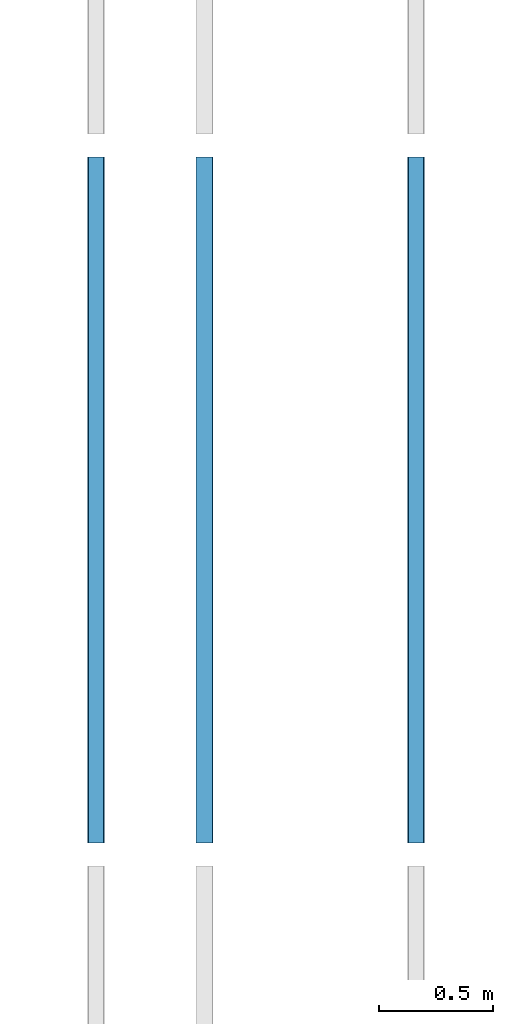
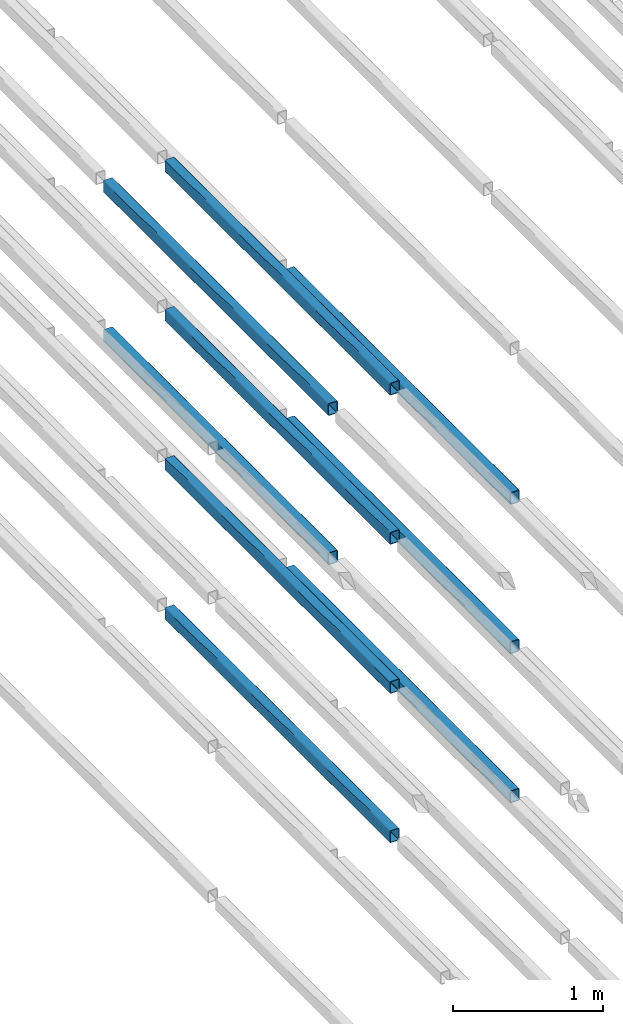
# One storey, part 65 of 290: 9 beams.
"""IFC2X3 building model written with IfcOpenShell, lengths in metres."""

from ifc_helpers import new_model, entity, si_unit, converted_unit, derived_unit, direction, frame, frame_2d, origin, place, context, subcontext, project, spatial, polyline, circle_curve, parameter, trimmed, segment, composite_curve, outline, extrude, material, type_object, element, save


model = new_model("IFC2X3")

# Units and contexts
model_context = context("Model", 3, precision=1e-05, world=origin(), true_north=direction((6.12303176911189e-17, 1.0)))
body_context = subcontext(model_context, "Body", "Model", "MODEL_VIEW")
ifc_project = project(units=[si_unit("LENGTHUNIT", "METRE"), si_unit("AREAUNIT", "SQUARE_METRE"), si_unit("VOLUMEUNIT", "CUBIC_METRE"), converted_unit("PLANEANGLEUNIT", "DEGREE", entity("IfcRatioMeasure", 0.0174532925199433), si_unit("PLANEANGLEUNIT", "RADIAN"), dimensions=[0, 0, 0, 0, 0, 0, 0]), si_unit("MASSUNIT", "GRAM", prefix="KILO"), derived_unit("MASSDENSITYUNIT", [(si_unit("MASSUNIT", "GRAM", prefix="KILO"), 1), (si_unit("LENGTHUNIT", "METRE"), -3)]), derived_unit("MOMENTOFINERTIAUNIT", [(si_unit("LENGTHUNIT", "METRE"), 4)]), si_unit("TIMEUNIT", "SECOND"), si_unit("FREQUENCYUNIT", "HERTZ"), si_unit("THERMODYNAMICTEMPERATUREUNIT", "DEGREE_CELSIUS"), derived_unit("THERMALTRANSMITTANCEUNIT", [(si_unit("MASSUNIT", "GRAM", prefix="KILO"), 1), (si_unit("THERMODYNAMICTEMPERATUREUNIT", "KELVIN"), -1), (si_unit("TIMEUNIT", "SECOND"), -3)]), derived_unit("VOLUMETRICFLOWRATEUNIT", [(si_unit("LENGTHUNIT", "METRE"), 3), (si_unit("TIMEUNIT", "SECOND"), -1)]), si_unit("ELECTRICCURRENTUNIT", "AMPERE"), si_unit("ELECTRICVOLTAGEUNIT", "VOLT"), si_unit("POWERUNIT", "WATT"), si_unit("FORCEUNIT", "NEWTON", prefix="KILO"), si_unit("ILLUMINANCEUNIT", "LUX"), si_unit("LUMINOUSFLUXUNIT", "LUMEN"), si_unit("LUMINOUSINTENSITYUNIT", "CANDELA"), derived_unit("USERDEFINED", [(si_unit("MASSUNIT", "GRAM", prefix="KILO"), -1), (si_unit("LENGTHUNIT", "METRE"), -2), (si_unit("TIMEUNIT", "SECOND"), 3), (si_unit("LUMINOUSFLUXUNIT", "LUMEN"), 1)]), derived_unit("LINEARVELOCITYUNIT", [(si_unit("LENGTHUNIT", "METRE"), 1), (si_unit("TIMEUNIT", "SECOND"), -1)]), si_unit("PRESSUREUNIT", "PASCAL"), derived_unit("USERDEFINED", [(si_unit("LENGTHUNIT", "METRE"), -2), (si_unit("MASSUNIT", "GRAM", prefix="KILO"), 1), (si_unit("TIMEUNIT", "SECOND"), -2)]), derived_unit("LINEARFORCEUNIT", [(si_unit("MASSUNIT", "GRAM", prefix="KILO"), 1), (si_unit("LENGTHUNIT", "METRE"), 1), (si_unit("TIMEUNIT", "SECOND"), -2), (si_unit("LENGTHUNIT", "METRE"), -1)]), derived_unit("PLANARFORCEUNIT", [(si_unit("MASSUNIT", "GRAM", prefix="KILO"), 1), (si_unit("LENGTHUNIT", "METRE"), 1), (si_unit("TIMEUNIT", "SECOND"), -2), (si_unit("LENGTHUNIT", "METRE"), -2)])], contexts=[model_context])

# Site, building, storey
site_placement = place(None, origin())
site = spatial("IfcSite", under=ifc_project, at=site_placement, Name="Default", CompositionType="ELEMENT")
building_placement = place(site_placement, origin())
building = spatial("IfcBuilding", under=site, at=building_placement, CompositionType="ELEMENT")
storey_placement = place(building_placement, frame((0.0, 0.0, 4.0)))
storey = spatial("IfcBuildingStorey", under=building, at=storey_placement, Name="01_OG", CompositionType="ELEMENT", Elevation=4.0)

# Beams
ifc_material = material(Name="Metall - Baustahl S235 blau")
beam_type = type_object("IfcBeamType", Name="RHS Träger (EN 10219-2):RHS 100 x 75 x 5", PredefinedType="NOTDEFINED")
beam_1_placement = place(storey_placement, frame((-189.865111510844, 39.548088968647, 1.23), z_axis=(0.0, 0.0, 1.0), x_axis=(0.0, 1.0, 0.0)))
element("IfcBeam", 1, at=beam_1_placement, inside=storey, type_object=beam_type, material=ifc_material, Name="RHS Träger (EN 10219-2):RHS 100 x 75 x 5", ObjectType="RHS Träger (EN 10219-2):RHS 100 x 75 x 5", context=body_context, shape_type="SweptSolid", body=[
    extrude(outline(composite_curve([segment(polyline([(-0.0399999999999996, -0.0375000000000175), (0.0399999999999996, -0.0375000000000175)]), True, "CONTINUOUS"), segment(trimmed(circle_curve(frame_2d((0.0399999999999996, -0.0275000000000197), x_axis=(0.0, 1.0)), 0.01), [parameter(180.0)], [parameter(270.0)], True, "PARAMETER"), True, "CONTINUOUS"), segment(polyline([(0.0500000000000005, -0.0275000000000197), (0.0500000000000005, 0.0274999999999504)]), True, "CONTINUOUS"), segment(trimmed(circle_curve(frame_2d((0.0399999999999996, 0.0274999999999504), x_axis=(0.0, 1.0)), 0.01), [parameter(270.0)], [parameter(4.07110999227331e-13)], True, "PARAMETER"), True, "CONTINUOUS"), segment(polyline([(0.0399999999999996, 0.0374999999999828), (-0.0399999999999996, 0.0374999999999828)]), True, "CONTINUOUS"), segment(trimmed(circle_curve(frame_2d((-0.0399999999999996, 0.0274999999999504), x_axis=(0.0, 1.0)), 0.01), [parameter(360.0)], [parameter(90.0000000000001)], True, "PARAMETER"), True, "CONTINUOUS"), segment(polyline([(-0.0499999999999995, 0.0274999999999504), (-0.0499999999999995, -0.0275000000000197)]), True, "CONTINUOUS"), segment(trimmed(circle_curve(frame_2d((-0.0399999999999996, -0.0275000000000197), x_axis=(0.0, 1.0)), 0.01), [parameter(90.0000000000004)], [parameter(180.0)], True, "PARAMETER"), True, "CONTINUOUS")], self_intersect=False), holes=[composite_curve([segment(trimmed(circle_curve(frame_2d((-0.0400000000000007, 0.0274999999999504), x_axis=(0.0, 1.0)), 0.005), [parameter(360.0)], [parameter(89.9999999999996)], True, "PARAMETER"), False, "CONTINUOUS"), segment(polyline([(-0.0400000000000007, 0.0324999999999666), (0.0399999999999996, 0.0324999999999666)]), True, "CONTINUOUS"), segment(trimmed(circle_curve(frame_2d((0.0399999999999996, 0.0274999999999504), x_axis=(0.0, 1.0)), 0.005), [parameter(270.0)], [parameter(0.0)], True, "PARAMETER"), False, "CONTINUOUS"), segment(polyline([(0.0449999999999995, 0.0274999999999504), (0.0449999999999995, -0.0275000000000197)]), True, "CONTINUOUS"), segment(trimmed(circle_curve(frame_2d((0.0399999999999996, -0.0275000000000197), x_axis=(0.0, 1.0)), 0.005), [parameter(180.0)], [parameter(269.999999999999)], True, "PARAMETER"), False, "CONTINUOUS"), segment(polyline([(0.0399999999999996, -0.0325000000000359), (-0.0400000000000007, -0.0325000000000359)]), True, "CONTINUOUS"), segment(trimmed(circle_curve(frame_2d((-0.0400000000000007, -0.0275000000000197), x_axis=(0.0, 1.0)), 0.005), [parameter(90.0000000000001)], [parameter(180.0)], True, "PARAMETER"), False, "CONTINUOUS"), segment(polyline([(-0.0450000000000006, -0.0275000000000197), (-0.0450000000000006, 0.0274999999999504)]), True, "CONTINUOUS")], self_intersect=False)]), frame((0.000100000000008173, -0.0374999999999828, -0.0500000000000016), z_axis=(1.0, 0.0, 0.0), x_axis=(0.0, 0.0, -1.0)), (0.0, 0.0, 1.0), 2.99979999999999),
])
beam_2_placement = place(storey_placement, frame((-189.865111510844, 39.548088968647, 2.445), z_axis=(0.0, 0.0, 1.0), x_axis=(0.0, 1.0, 0.0)))
element("IfcBeam", 2, at=beam_2_placement, inside=storey, type_object=beam_type, material=ifc_material, Name="RHS Träger (EN 10219-2):RHS 100 x 75 x 5", ObjectType="RHS Träger (EN 10219-2):RHS 100 x 75 x 5", context=body_context, shape_type="SweptSolid", body=[
    extrude(outline(composite_curve([segment(polyline([(-0.0399999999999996, -0.0375000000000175), (0.0399999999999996, -0.0375000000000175)]), True, "CONTINUOUS"), segment(trimmed(circle_curve(frame_2d((0.0399999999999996, -0.0275000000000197), x_axis=(0.0, 1.0)), 0.01), [parameter(180.0)], [parameter(270.0)], True, "PARAMETER"), True, "CONTINUOUS"), segment(polyline([(0.0500000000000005, -0.0275000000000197), (0.0500000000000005, 0.0274999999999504)]), True, "CONTINUOUS"), segment(trimmed(circle_curve(frame_2d((0.0399999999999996, 0.0274999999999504), x_axis=(0.0, 1.0)), 0.01), [parameter(270.0)], [parameter(4.07110999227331e-13)], True, "PARAMETER"), True, "CONTINUOUS"), segment(polyline([(0.0399999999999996, 0.0374999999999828), (-0.0399999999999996, 0.0374999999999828)]), True, "CONTINUOUS"), segment(trimmed(circle_curve(frame_2d((-0.0399999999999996, 0.0274999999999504), x_axis=(0.0, 1.0)), 0.01), [parameter(360.0)], [parameter(90.0000000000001)], True, "PARAMETER"), True, "CONTINUOUS"), segment(polyline([(-0.0499999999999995, 0.0274999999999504), (-0.0499999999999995, -0.0275000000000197)]), True, "CONTINUOUS"), segment(trimmed(circle_curve(frame_2d((-0.0399999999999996, -0.0275000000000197), x_axis=(0.0, 1.0)), 0.01), [parameter(90.0000000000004)], [parameter(180.0)], True, "PARAMETER"), True, "CONTINUOUS")], self_intersect=False), holes=[composite_curve([segment(trimmed(circle_curve(frame_2d((-0.0400000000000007, 0.0274999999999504), x_axis=(0.0, 1.0)), 0.005), [parameter(360.0)], [parameter(89.9999999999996)], True, "PARAMETER"), False, "CONTINUOUS"), segment(polyline([(-0.0400000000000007, 0.0324999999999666), (0.0399999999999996, 0.0324999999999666)]), True, "CONTINUOUS"), segment(trimmed(circle_curve(frame_2d((0.0399999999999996, 0.0274999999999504), x_axis=(0.0, 1.0)), 0.005), [parameter(270.0)], [parameter(0.0)], True, "PARAMETER"), False, "CONTINUOUS"), segment(polyline([(0.0449999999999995, 0.0274999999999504), (0.0449999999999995, -0.0275000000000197)]), True, "CONTINUOUS"), segment(trimmed(circle_curve(frame_2d((0.0399999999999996, -0.0275000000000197), x_axis=(0.0, 1.0)), 0.005), [parameter(180.0)], [parameter(269.999999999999)], True, "PARAMETER"), False, "CONTINUOUS"), segment(polyline([(0.0399999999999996, -0.0325000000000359), (-0.0400000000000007, -0.0325000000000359)]), True, "CONTINUOUS"), segment(trimmed(circle_curve(frame_2d((-0.0400000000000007, -0.0275000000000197), x_axis=(0.0, 1.0)), 0.005), [parameter(90.0000000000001)], [parameter(180.0)], True, "PARAMETER"), False, "CONTINUOUS"), segment(polyline([(-0.0450000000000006, -0.0275000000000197), (-0.0450000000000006, 0.0274999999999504)]), True, "CONTINUOUS")], self_intersect=False)]), frame((0.000100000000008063, -0.0374999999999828, -0.0500000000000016), z_axis=(1.0, 0.0, 0.0), x_axis=(0.0, 0.0, -1.0)), (0.0, 0.0, 1.0), 2.99979999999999),
])
beam_3_placement = place(storey_placement, frame((-189.315111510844, 39.548088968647, -1.2), z_axis=(0.0, 0.0, 1.0), x_axis=(0.0, 1.0, 0.0)))
element("IfcBeam", 3, at=beam_3_placement, inside=storey, type_object=beam_type, material=ifc_material, Name="RHS Träger (EN 10219-2):RHS 100 x 75 x 5", ObjectType="RHS Träger (EN 10219-2):RHS 100 x 75 x 5", context=body_context, shape_type="SweptSolid", body=[
    extrude(outline(composite_curve([segment(trimmed(circle_curve(frame_2d((-0.0274999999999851, -0.0400000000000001), x_axis=(1.0, 0.0)), 0.01), [parameter(180.0)], [parameter(270.0)], True, "PARAMETER"), True, "CONTINUOUS"), segment(polyline([(-0.0274999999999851, -0.05), (0.0274999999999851, -0.05)]), True, "CONTINUOUS"), segment(trimmed(circle_curve(frame_2d((0.0274999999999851, -0.0400000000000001), x_axis=(1.0, 0.0)), 0.01), [parameter(270.0)], [parameter(5.08888749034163e-14)], True, "PARAMETER"), True, "CONTINUOUS"), segment(polyline([(0.0375000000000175, -0.0400000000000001), (0.0375000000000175, 0.0400000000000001)]), True, "CONTINUOUS"), segment(trimmed(circle_curve(frame_2d((0.0274999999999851, 0.0400000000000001), x_axis=(1.0, 0.0)), 0.01), [parameter(360.0)], [parameter(89.9999999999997)], True, "PARAMETER"), True, "CONTINUOUS"), segment(polyline([(0.0274999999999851, 0.05), (-0.0274999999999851, 0.05)]), True, "CONTINUOUS"), segment(trimmed(circle_curve(frame_2d((-0.0274999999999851, 0.0400000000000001), x_axis=(1.0, 0.0)), 0.01), [parameter(90.0000000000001)], [parameter(180.0)], True, "PARAMETER"), True, "CONTINUOUS"), segment(polyline([(-0.0374999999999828, 0.0400000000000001), (-0.0374999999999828, -0.0400000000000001)]), True, "CONTINUOUS")], self_intersect=False), holes=[composite_curve([segment(polyline([(0.0274999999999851, -0.0450000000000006), (-0.0274999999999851, -0.0450000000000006)]), True, "CONTINUOUS"), segment(trimmed(circle_curve(frame_2d((-0.0274999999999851, -0.0400000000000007), x_axis=(1.0, 0.0)), 0.005), [parameter(180.0)], [parameter(270.0)], True, "PARAMETER"), False, "CONTINUOUS"), segment(polyline([(-0.0325000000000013, -0.0400000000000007), (-0.0325000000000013, 0.039999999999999)]), True, "CONTINUOUS"), segment(trimmed(circle_curve(frame_2d((-0.0274999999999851, 0.039999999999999), x_axis=(1.0, 0.0)), 0.005), [parameter(90.0000000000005)], [parameter(180.0)], True, "PARAMETER"), False, "CONTINUOUS"), segment(polyline([(-0.0274999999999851, 0.044999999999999), (0.0274999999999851, 0.044999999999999)]), True, "CONTINUOUS"), segment(trimmed(circle_curve(frame_2d((0.0274999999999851, 0.039999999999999), x_axis=(1.0, 0.0)), 0.005), [parameter(0.0)], [parameter(90.0000000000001)], True, "PARAMETER"), False, "CONTINUOUS"), segment(polyline([(0.0325000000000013, 0.039999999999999), (0.0325000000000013, -0.0400000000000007)]), True, "CONTINUOUS"), segment(trimmed(circle_curve(frame_2d((0.0274999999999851, -0.0400000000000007), x_axis=(1.0, 0.0)), 0.005), [parameter(270.0)], [parameter(4.07110999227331e-13)], True, "PARAMETER"), False, "CONTINUOUS")], self_intersect=False)]), frame((9.99999999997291e-05, 0.0375000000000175, -0.0500000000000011), z_axis=(1.0, 0.0, 0.0), x_axis=(0.0, -1.0, 0.0)), (0.0, 0.0, 1.0), 2.99979999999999),
])
beam_4_placement = place(storey_placement, frame((-189.315111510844, 39.548088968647, 0.0150000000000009), z_axis=(0.0, 0.0, 1.0), x_axis=(0.0, 1.0, 0.0)))
element("IfcBeam", 4, at=beam_4_placement, inside=storey, type_object=beam_type, material=ifc_material, Name="RHS Träger (EN 10219-2):RHS 100 x 75 x 5", ObjectType="RHS Träger (EN 10219-2):RHS 100 x 75 x 5", context=body_context, shape_type="SweptSolid", body=[
    extrude(outline(composite_curve([segment(trimmed(circle_curve(frame_2d((-0.0274999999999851, -0.0400000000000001), x_axis=(1.0, 0.0)), 0.01), [parameter(180.0)], [parameter(270.0)], True, "PARAMETER"), True, "CONTINUOUS"), segment(polyline([(-0.0274999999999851, -0.05), (0.0274999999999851, -0.05)]), True, "CONTINUOUS"), segment(trimmed(circle_curve(frame_2d((0.0274999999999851, -0.0400000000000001), x_axis=(1.0, 0.0)), 0.01), [parameter(270.0)], [parameter(5.08888749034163e-14)], True, "PARAMETER"), True, "CONTINUOUS"), segment(polyline([(0.0375000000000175, -0.0400000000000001), (0.0375000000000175, 0.0400000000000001)]), True, "CONTINUOUS"), segment(trimmed(circle_curve(frame_2d((0.0274999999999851, 0.0400000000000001), x_axis=(1.0, 0.0)), 0.01), [parameter(360.0)], [parameter(89.9999999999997)], True, "PARAMETER"), True, "CONTINUOUS"), segment(polyline([(0.0274999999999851, 0.05), (-0.0274999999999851, 0.05)]), True, "CONTINUOUS"), segment(trimmed(circle_curve(frame_2d((-0.0274999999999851, 0.0400000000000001), x_axis=(1.0, 0.0)), 0.01), [parameter(90.0000000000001)], [parameter(180.0)], True, "PARAMETER"), True, "CONTINUOUS"), segment(polyline([(-0.0374999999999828, 0.0400000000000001), (-0.0374999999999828, -0.0400000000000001)]), True, "CONTINUOUS")], self_intersect=False), holes=[composite_curve([segment(polyline([(0.0274999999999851, -0.0450000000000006), (-0.0274999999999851, -0.0450000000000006)]), True, "CONTINUOUS"), segment(trimmed(circle_curve(frame_2d((-0.0274999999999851, -0.0400000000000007), x_axis=(1.0, 0.0)), 0.005), [parameter(180.0)], [parameter(270.0)], True, "PARAMETER"), False, "CONTINUOUS"), segment(polyline([(-0.0325000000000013, -0.0400000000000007), (-0.0325000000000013, 0.039999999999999)]), True, "CONTINUOUS"), segment(trimmed(circle_curve(frame_2d((-0.0274999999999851, 0.039999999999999), x_axis=(1.0, 0.0)), 0.005), [parameter(90.0000000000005)], [parameter(180.0)], True, "PARAMETER"), False, "CONTINUOUS"), segment(polyline([(-0.0274999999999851, 0.044999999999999), (0.0274999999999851, 0.044999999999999)]), True, "CONTINUOUS"), segment(trimmed(circle_curve(frame_2d((0.0274999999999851, 0.039999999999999), x_axis=(1.0, 0.0)), 0.005), [parameter(0.0)], [parameter(90.0000000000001)], True, "PARAMETER"), False, "CONTINUOUS"), segment(polyline([(0.0325000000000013, 0.039999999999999), (0.0325000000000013, -0.0400000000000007)]), True, "CONTINUOUS"), segment(trimmed(circle_curve(frame_2d((0.0274999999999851, -0.0400000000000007), x_axis=(1.0, 0.0)), 0.005), [parameter(270.0)], [parameter(4.07110999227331e-13)], True, "PARAMETER"), False, "CONTINUOUS")], self_intersect=False)]), frame((9.99999999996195e-05, 0.0375000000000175, -0.0500000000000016), z_axis=(1.0, 0.0, 0.0), x_axis=(0.0, -1.0, 0.0)), (0.0, 0.0, 1.0), 2.99979999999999),
])
beam_5_placement = place(storey_placement, frame((-189.315111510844, 39.548088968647, 1.23), z_axis=(0.0, 0.0, 1.0), x_axis=(0.0, 1.0, 0.0)))
element("IfcBeam", 5, at=beam_5_placement, inside=storey, type_object=beam_type, material=ifc_material, Name="RHS Träger (EN 10219-2):RHS 100 x 75 x 5", ObjectType="RHS Träger (EN 10219-2):RHS 100 x 75 x 5", context=body_context, shape_type="SweptSolid", body=[
    extrude(outline(composite_curve([segment(trimmed(circle_curve(frame_2d((-0.0274999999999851, -0.0399999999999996), x_axis=(1.0, 0.0)), 0.01), [parameter(180.0)], [parameter(270.0)], True, "PARAMETER"), True, "CONTINUOUS"), segment(polyline([(-0.0274999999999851, -0.0499999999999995), (0.0274999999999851, -0.0499999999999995)]), True, "CONTINUOUS"), segment(trimmed(circle_curve(frame_2d((0.0274999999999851, -0.0399999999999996), x_axis=(1.0, 0.0)), 0.01), [parameter(270.0)], [parameter(5.08888749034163e-14)], True, "PARAMETER"), True, "CONTINUOUS"), segment(polyline([(0.0375000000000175, -0.0399999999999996), (0.0375000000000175, 0.0399999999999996)]), True, "CONTINUOUS"), segment(trimmed(circle_curve(frame_2d((0.0274999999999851, 0.0399999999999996), x_axis=(1.0, 0.0)), 0.01), [parameter(360.0)], [parameter(89.9999999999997)], True, "PARAMETER"), True, "CONTINUOUS"), segment(polyline([(0.0274999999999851, 0.0500000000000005), (-0.0274999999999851, 0.0500000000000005)]), True, "CONTINUOUS"), segment(trimmed(circle_curve(frame_2d((-0.0274999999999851, 0.0399999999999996), x_axis=(1.0, 0.0)), 0.01), [parameter(90.0000000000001)], [parameter(180.0)], True, "PARAMETER"), True, "CONTINUOUS"), segment(polyline([(-0.0374999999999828, 0.0399999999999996), (-0.0374999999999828, -0.0399999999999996)]), True, "CONTINUOUS")], self_intersect=False), holes=[composite_curve([segment(polyline([(0.0274999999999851, -0.0450000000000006), (-0.0274999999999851, -0.0450000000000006)]), True, "CONTINUOUS"), segment(trimmed(circle_curve(frame_2d((-0.0274999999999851, -0.0400000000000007), x_axis=(1.0, 0.0)), 0.005), [parameter(180.0)], [parameter(270.0)], True, "PARAMETER"), False, "CONTINUOUS"), segment(polyline([(-0.0325000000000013, -0.0400000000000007), (-0.0325000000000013, 0.0399999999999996)]), True, "CONTINUOUS"), segment(trimmed(circle_curve(frame_2d((-0.0274999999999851, 0.0399999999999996), x_axis=(1.0, 0.0)), 0.005), [parameter(90.0000000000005)], [parameter(180.0)], True, "PARAMETER"), False, "CONTINUOUS"), segment(polyline([(-0.0274999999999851, 0.0449999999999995), (0.0274999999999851, 0.0449999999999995)]), True, "CONTINUOUS"), segment(trimmed(circle_curve(frame_2d((0.0274999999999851, 0.0399999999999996), x_axis=(1.0, 0.0)), 0.005), [parameter(0.0)], [parameter(90.0000000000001)], True, "PARAMETER"), False, "CONTINUOUS"), segment(polyline([(0.0325000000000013, 0.0399999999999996), (0.0325000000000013, -0.0400000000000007)]), True, "CONTINUOUS"), segment(trimmed(circle_curve(frame_2d((0.0274999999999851, -0.0400000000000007), x_axis=(1.0, 0.0)), 0.005), [parameter(270.0)], [parameter(4.07110999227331e-13)], True, "PARAMETER"), False, "CONTINUOUS")], self_intersect=False)]), frame((9.99999999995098e-05, 0.0375000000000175, -0.0500000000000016), z_axis=(1.0, 0.0, 0.0), x_axis=(0.0, -1.0, 0.0)), (0.0, 0.0, 1.0), 2.99979999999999),
])
beam_6_placement = place(storey_placement, frame((-189.315111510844, 39.548088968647, 2.445), z_axis=(0.0, 0.0, 1.0), x_axis=(0.0, 1.0, 0.0)))
element("IfcBeam", 6, at=beam_6_placement, inside=storey, type_object=beam_type, material=ifc_material, Name="RHS Träger (EN 10219-2):RHS 100 x 75 x 5", ObjectType="RHS Träger (EN 10219-2):RHS 100 x 75 x 5", context=body_context, shape_type="SweptSolid", body=[
    extrude(outline(composite_curve([segment(trimmed(circle_curve(frame_2d((-0.0274999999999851, -0.0399999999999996), x_axis=(1.0, 0.0)), 0.01), [parameter(180.0)], [parameter(270.0)], True, "PARAMETER"), True, "CONTINUOUS"), segment(polyline([(-0.0274999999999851, -0.0499999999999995), (0.0274999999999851, -0.0499999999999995)]), True, "CONTINUOUS"), segment(trimmed(circle_curve(frame_2d((0.0274999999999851, -0.0399999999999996), x_axis=(1.0, 0.0)), 0.01), [parameter(270.0)], [parameter(5.08888749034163e-14)], True, "PARAMETER"), True, "CONTINUOUS"), segment(polyline([(0.0375000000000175, -0.0399999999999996), (0.0375000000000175, 0.0399999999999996)]), True, "CONTINUOUS"), segment(trimmed(circle_curve(frame_2d((0.0274999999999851, 0.0399999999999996), x_axis=(1.0, 0.0)), 0.01), [parameter(360.0)], [parameter(89.9999999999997)], True, "PARAMETER"), True, "CONTINUOUS"), segment(polyline([(0.0274999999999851, 0.0500000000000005), (-0.0274999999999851, 0.0500000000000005)]), True, "CONTINUOUS"), segment(trimmed(circle_curve(frame_2d((-0.0274999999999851, 0.0399999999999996), x_axis=(1.0, 0.0)), 0.01), [parameter(90.0000000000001)], [parameter(180.0)], True, "PARAMETER"), True, "CONTINUOUS"), segment(polyline([(-0.0374999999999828, 0.0399999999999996), (-0.0374999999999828, -0.0399999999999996)]), True, "CONTINUOUS")], self_intersect=False), holes=[composite_curve([segment(polyline([(0.0274999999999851, -0.0450000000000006), (-0.0274999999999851, -0.0450000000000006)]), True, "CONTINUOUS"), segment(trimmed(circle_curve(frame_2d((-0.0274999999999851, -0.0400000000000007), x_axis=(1.0, 0.0)), 0.005), [parameter(180.0)], [parameter(270.0)], True, "PARAMETER"), False, "CONTINUOUS"), segment(polyline([(-0.0325000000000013, -0.0400000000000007), (-0.0325000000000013, 0.0399999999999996)]), True, "CONTINUOUS"), segment(trimmed(circle_curve(frame_2d((-0.0274999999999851, 0.0399999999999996), x_axis=(1.0, 0.0)), 0.005), [parameter(90.0000000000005)], [parameter(180.0)], True, "PARAMETER"), False, "CONTINUOUS"), segment(polyline([(-0.0274999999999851, 0.0449999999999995), (0.0274999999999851, 0.0449999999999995)]), True, "CONTINUOUS"), segment(trimmed(circle_curve(frame_2d((0.0274999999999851, 0.0399999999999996), x_axis=(1.0, 0.0)), 0.005), [parameter(0.0)], [parameter(90.0000000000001)], True, "PARAMETER"), False, "CONTINUOUS"), segment(polyline([(0.0325000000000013, 0.0399999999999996), (0.0325000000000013, -0.0400000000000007)]), True, "CONTINUOUS"), segment(trimmed(circle_curve(frame_2d((0.0274999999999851, -0.0400000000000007), x_axis=(1.0, 0.0)), 0.005), [parameter(270.0)], [parameter(4.07110999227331e-13)], True, "PARAMETER"), False, "CONTINUOUS")], self_intersect=False)]), frame((9.99999999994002e-05, 0.0375000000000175, -0.0500000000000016), z_axis=(1.0, 0.0, 0.0), x_axis=(0.0, -1.0, 0.0)), (0.0, 0.0, 1.0), 2.99979999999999),
])
beam_7_placement = place(storey_placement, frame((-188.465111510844, 39.548088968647, -1.2), z_axis=(0.0, 0.0, 1.0), x_axis=(0.0, 1.0, 0.0)))
element("IfcBeam", 7, at=beam_7_placement, inside=storey, type_object=beam_type, material=ifc_material, Name="RHS Träger (EN 10219-2):RHS 100 x 75 x 5", ObjectType="RHS Träger (EN 10219-2):RHS 100 x 75 x 5", context=body_context, shape_type="SweptSolid", body=[
    extrude(outline(composite_curve([segment(polyline([(-0.0400000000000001, -0.0374999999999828), (0.0400000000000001, -0.0374999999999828)]), True, "CONTINUOUS"), segment(trimmed(circle_curve(frame_2d((0.0400000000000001, -0.0274999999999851), x_axis=(0.0, 1.0)), 0.01), [parameter(180.0)], [parameter(270.0)], True, "PARAMETER"), True, "CONTINUOUS"), segment(polyline([(0.05, -0.0274999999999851), (0.05, 0.0274999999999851)]), True, "CONTINUOUS"), segment(trimmed(circle_curve(frame_2d((0.0400000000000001, 0.0274999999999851), x_axis=(0.0, 1.0)), 0.01), [parameter(270.0)], [parameter(4.07110999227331e-13)], True, "PARAMETER"), True, "CONTINUOUS"), segment(polyline([(0.0400000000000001, 0.0375000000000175), (-0.0400000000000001, 0.0375000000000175)]), True, "CONTINUOUS"), segment(trimmed(circle_curve(frame_2d((-0.0400000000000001, 0.0274999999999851), x_axis=(0.0, 1.0)), 0.01), [parameter(360.0)], [parameter(90.0000000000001)], True, "PARAMETER"), True, "CONTINUOUS"), segment(polyline([(-0.05, 0.0274999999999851), (-0.05, -0.0274999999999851)]), True, "CONTINUOUS"), segment(trimmed(circle_curve(frame_2d((-0.0400000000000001, -0.0274999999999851), x_axis=(0.0, 1.0)), 0.01), [parameter(90.0000000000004)], [parameter(180.0)], True, "PARAMETER"), True, "CONTINUOUS")], self_intersect=False), holes=[composite_curve([segment(trimmed(circle_curve(frame_2d((-0.0400000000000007, 0.0274999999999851), x_axis=(0.0, 1.0)), 0.005), [parameter(360.0)], [parameter(89.9999999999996)], True, "PARAMETER"), False, "CONTINUOUS"), segment(polyline([(-0.0400000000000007, 0.0325000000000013), (0.039999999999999, 0.0325000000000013)]), True, "CONTINUOUS"), segment(trimmed(circle_curve(frame_2d((0.039999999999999, 0.0274999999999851), x_axis=(0.0, 1.0)), 0.005), [parameter(270.0)], [parameter(0.0)], True, "PARAMETER"), False, "CONTINUOUS"), segment(polyline([(0.044999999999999, 0.0274999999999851), (0.044999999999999, -0.0274999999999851)]), True, "CONTINUOUS"), segment(trimmed(circle_curve(frame_2d((0.039999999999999, -0.0274999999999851), x_axis=(0.0, 1.0)), 0.005), [parameter(180.0)], [parameter(269.999999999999)], True, "PARAMETER"), False, "CONTINUOUS"), segment(polyline([(0.039999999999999, -0.0325000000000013), (-0.0400000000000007, -0.0325000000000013)]), True, "CONTINUOUS"), segment(trimmed(circle_curve(frame_2d((-0.0400000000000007, -0.0274999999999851), x_axis=(0.0, 1.0)), 0.005), [parameter(90.0000000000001)], [parameter(180.0)], True, "PARAMETER"), False, "CONTINUOUS"), segment(polyline([(-0.0450000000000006, -0.0274999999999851), (-0.0450000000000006, 0.0274999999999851)]), True, "CONTINUOUS")], self_intersect=False)]), frame((0.000100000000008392, -0.0375000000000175, -0.0500000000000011), z_axis=(1.0, 0.0, 0.0), x_axis=(0.0, 0.0, -1.0)), (0.0, 0.0, 1.0), 2.99979999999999),
])
beam_8_placement = place(storey_placement, frame((-188.465111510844, 39.548088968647, 0.0150000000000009), z_axis=(0.0, 0.0, 1.0), x_axis=(0.0, 1.0, 0.0)))
element("IfcBeam", 8, at=beam_8_placement, inside=storey, type_object=beam_type, material=ifc_material, Name="RHS Träger (EN 10219-2):RHS 100 x 75 x 5", ObjectType="RHS Träger (EN 10219-2):RHS 100 x 75 x 5", context=body_context, shape_type="SweptSolid", body=[
    extrude(outline(composite_curve([segment(polyline([(-0.0400000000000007, -0.0374999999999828), (0.0399999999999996, -0.0374999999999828)]), True, "CONTINUOUS"), segment(trimmed(circle_curve(frame_2d((0.0399999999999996, -0.0274999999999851), x_axis=(0.0, 1.0)), 0.01), [parameter(180.0)], [parameter(270.0)], True, "PARAMETER"), True, "CONTINUOUS"), segment(polyline([(0.0499999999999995, -0.0274999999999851), (0.0499999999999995, 0.0274999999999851)]), True, "CONTINUOUS"), segment(trimmed(circle_curve(frame_2d((0.0399999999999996, 0.0274999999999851), x_axis=(0.0, 1.0)), 0.01), [parameter(270.0)], [parameter(4.07110999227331e-13)], True, "PARAMETER"), True, "CONTINUOUS"), segment(polyline([(0.0399999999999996, 0.0375000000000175), (-0.0400000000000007, 0.0375000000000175)]), True, "CONTINUOUS"), segment(trimmed(circle_curve(frame_2d((-0.0400000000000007, 0.0274999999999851), x_axis=(0.0, 1.0)), 0.01), [parameter(360.0)], [parameter(90.0000000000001)], True, "PARAMETER"), True, "CONTINUOUS"), segment(polyline([(-0.0500000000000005, 0.0274999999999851), (-0.0500000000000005, -0.0274999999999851)]), True, "CONTINUOUS"), segment(trimmed(circle_curve(frame_2d((-0.0400000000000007, -0.0274999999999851), x_axis=(0.0, 1.0)), 0.01), [parameter(90.0000000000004)], [parameter(180.0)], True, "PARAMETER"), True, "CONTINUOUS")], self_intersect=False), holes=[composite_curve([segment(trimmed(circle_curve(frame_2d((-0.0400000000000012, 0.0274999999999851), x_axis=(0.0, 1.0)), 0.005), [parameter(360.0)], [parameter(89.9999999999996)], True, "PARAMETER"), False, "CONTINUOUS"), segment(polyline([(-0.0400000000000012, 0.0325000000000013), (0.0399999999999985, 0.0325000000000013)]), True, "CONTINUOUS"), segment(trimmed(circle_curve(frame_2d((0.0399999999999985, 0.0274999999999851), x_axis=(0.0, 1.0)), 0.005), [parameter(270.0)], [parameter(0.0)], True, "PARAMETER"), False, "CONTINUOUS"), segment(polyline([(0.0449999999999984, 0.0274999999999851), (0.0449999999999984, -0.0274999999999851)]), True, "CONTINUOUS"), segment(trimmed(circle_curve(frame_2d((0.0399999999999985, -0.0274999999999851), x_axis=(0.0, 1.0)), 0.005), [parameter(180.0)], [parameter(269.999999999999)], True, "PARAMETER"), False, "CONTINUOUS"), segment(polyline([(0.0399999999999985, -0.0325000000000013), (-0.0400000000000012, -0.0325000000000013)]), True, "CONTINUOUS"), segment(trimmed(circle_curve(frame_2d((-0.0400000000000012, -0.0274999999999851), x_axis=(0.0, 1.0)), 0.005), [parameter(90.0000000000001)], [parameter(180.0)], True, "PARAMETER"), False, "CONTINUOUS"), segment(polyline([(-0.0450000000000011, -0.0274999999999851), (-0.0450000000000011, 0.0274999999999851)]), True, "CONTINUOUS")], self_intersect=False)]), frame((0.000100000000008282, -0.0375000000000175, -0.0500000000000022), z_axis=(1.0, 0.0, 0.0), x_axis=(0.0, 0.0, -1.0)), (0.0, 0.0, 1.0), 2.99979999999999),
])
beam_9_placement = place(storey_placement, frame((-188.465111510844, 39.548088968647, 1.23), z_axis=(0.0, 0.0, 1.0), x_axis=(0.0, 1.0, 0.0)))
element("IfcBeam", 9, at=beam_9_placement, inside=storey, type_object=beam_type, material=ifc_material, Name="RHS Träger (EN 10219-2):RHS 100 x 75 x 5", ObjectType="RHS Träger (EN 10219-2):RHS 100 x 75 x 5", context=body_context, shape_type="SweptSolid", body=[
    extrude(outline(composite_curve([segment(polyline([(-0.0399999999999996, -0.0374999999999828), (0.0399999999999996, -0.0374999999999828)]), True, "CONTINUOUS"), segment(trimmed(circle_curve(frame_2d((0.0399999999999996, -0.0274999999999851), x_axis=(0.0, 1.0)), 0.01), [parameter(180.0)], [parameter(270.0)], True, "PARAMETER"), True, "CONTINUOUS"), segment(polyline([(0.0500000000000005, -0.0274999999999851), (0.0500000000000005, 0.0274999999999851)]), True, "CONTINUOUS"), segment(trimmed(circle_curve(frame_2d((0.0399999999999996, 0.0274999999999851), x_axis=(0.0, 1.0)), 0.01), [parameter(270.0)], [parameter(4.07110999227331e-13)], True, "PARAMETER"), True, "CONTINUOUS"), segment(polyline([(0.0399999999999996, 0.0375000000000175), (-0.0399999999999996, 0.0375000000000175)]), True, "CONTINUOUS"), segment(trimmed(circle_curve(frame_2d((-0.0399999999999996, 0.0274999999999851), x_axis=(0.0, 1.0)), 0.01), [parameter(360.0)], [parameter(90.0000000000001)], True, "PARAMETER"), True, "CONTINUOUS"), segment(polyline([(-0.0499999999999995, 0.0274999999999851), (-0.0499999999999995, -0.0274999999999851)]), True, "CONTINUOUS"), segment(trimmed(circle_curve(frame_2d((-0.0399999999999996, -0.0274999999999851), x_axis=(0.0, 1.0)), 0.01), [parameter(90.0000000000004)], [parameter(180.0)], True, "PARAMETER"), True, "CONTINUOUS")], self_intersect=False), holes=[composite_curve([segment(trimmed(circle_curve(frame_2d((-0.0400000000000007, 0.0274999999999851), x_axis=(0.0, 1.0)), 0.005), [parameter(360.0)], [parameter(89.9999999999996)], True, "PARAMETER"), False, "CONTINUOUS"), segment(polyline([(-0.0400000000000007, 0.0325000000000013), (0.0399999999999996, 0.0325000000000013)]), True, "CONTINUOUS"), segment(trimmed(circle_curve(frame_2d((0.0399999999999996, 0.0274999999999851), x_axis=(0.0, 1.0)), 0.005), [parameter(270.0)], [parameter(0.0)], True, "PARAMETER"), False, "CONTINUOUS"), segment(polyline([(0.0449999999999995, 0.0274999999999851), (0.0449999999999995, -0.0274999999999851)]), True, "CONTINUOUS"), segment(trimmed(circle_curve(frame_2d((0.0399999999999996, -0.0274999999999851), x_axis=(0.0, 1.0)), 0.005), [parameter(180.0)], [parameter(269.999999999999)], True, "PARAMETER"), False, "CONTINUOUS"), segment(polyline([(0.0399999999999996, -0.0325000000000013), (-0.0400000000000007, -0.0325000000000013)]), True, "CONTINUOUS"), segment(trimmed(circle_curve(frame_2d((-0.0400000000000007, -0.0274999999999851), x_axis=(0.0, 1.0)), 0.005), [parameter(90.0000000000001)], [parameter(180.0)], True, "PARAMETER"), False, "CONTINUOUS"), segment(polyline([(-0.0450000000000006, -0.0274999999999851), (-0.0450000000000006, 0.0274999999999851)]), True, "CONTINUOUS")], self_intersect=False)]), frame((0.000100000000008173, -0.0375000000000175, -0.0500000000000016), z_axis=(1.0, 0.0, 0.0), x_axis=(0.0, 0.0, -1.0)), (0.0, 0.0, 1.0), 2.99979999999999),
])

save(model, "model.ifc")
